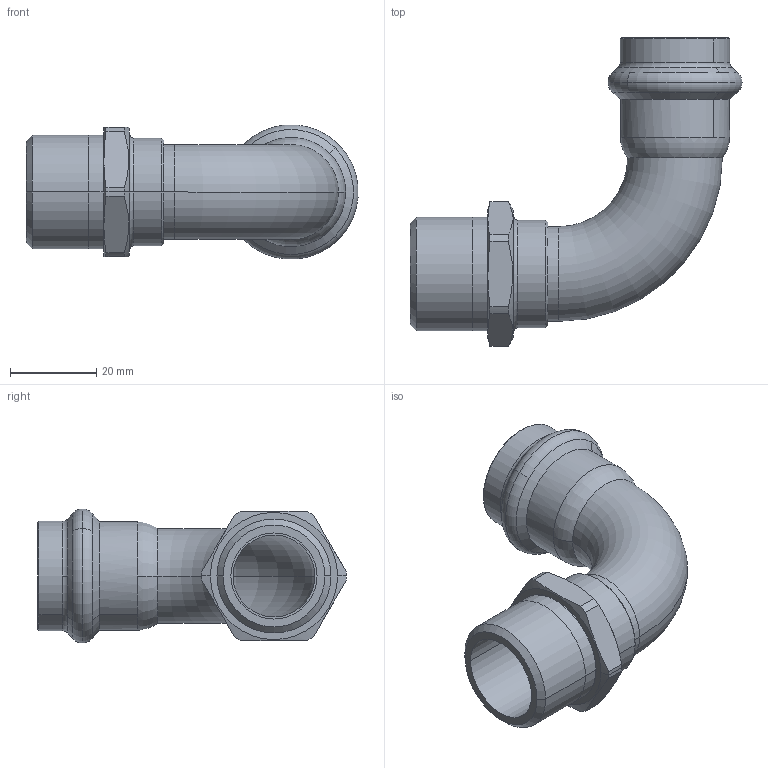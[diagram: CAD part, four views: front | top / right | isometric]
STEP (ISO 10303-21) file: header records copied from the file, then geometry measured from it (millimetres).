
FILE_DESCRIPTION(('CoCreate Modeling STEP Export'),'2;1');
FILE_NAME('8092GVW2234.stp','2013-03-05T11:23:52',(''),(''),'CoCreate Modeling STEP processor for AP214 (Solid Model)','CoCreate Modeling 17.00A 17-Jun-2010 (C) Parametric Technology GmbH','');
FILE_SCHEMA(('AUTOMOTIVE_DESIGN { 1 0 10303 214 1 1 1 1 }'));
Length unit declared in the file: millimetre
Products named in the file (2): 8092GVW2234
Assembly tree (1 placements, depth 2):
  8092GVW2234
    8092GVW2234
Bounding box: 77.04 x 71.64 x 31.08 mm (x, y, z)
Volume: 17375.1 mm3; surface area: 16100.5 mm2
Topology: 1 solids, 1 shells, 90 faces, 220 edges, 138 vertices
Faces by surface type: cylinder 34, cone 24, torus 18, plane 14
Entity records: 2866 total; most frequent: CARTESIAN_POINT 1063, ORIENTED_EDGE 440, DIRECTION 286, EDGE_CURVE 220, VERTEX_POINT 138, AXIS2_PLACEMENT_3D 111, EDGE_LOOP 98, FACE_OUTER_BOUND 90
